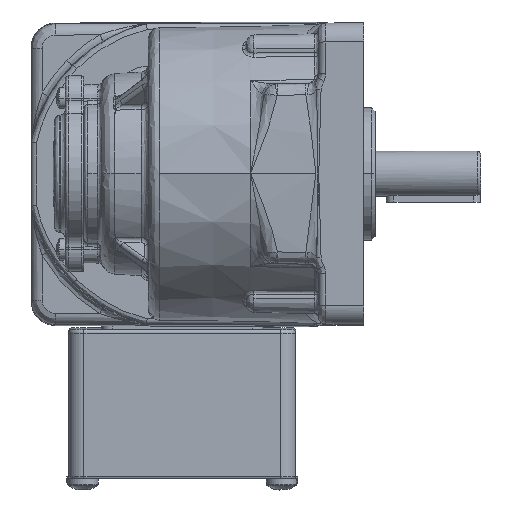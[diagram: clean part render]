
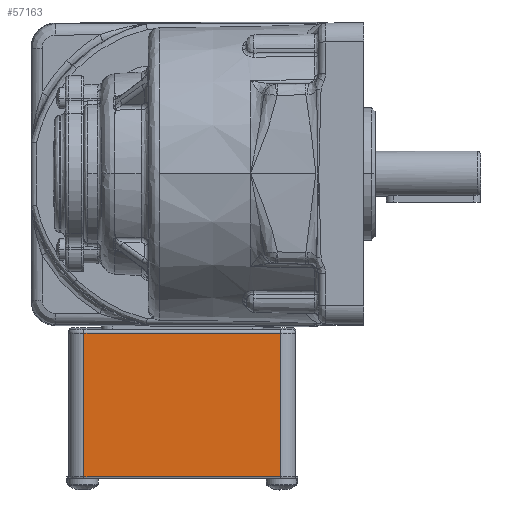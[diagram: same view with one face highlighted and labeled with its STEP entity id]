
A CAD part, top view. The second image highlights one B-rep face of the part: STEP entity #57163.
In plain terms, the highlighted planar face has unit normal (0, -0.008, 1) as drawn and (0, -1, 0.008) by its records, which use the part's own axes.
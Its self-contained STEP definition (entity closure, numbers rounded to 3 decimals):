
#659 = AXIS2_PLACEMENT_3D ( 'NONE', #3246, #1456, #1428 ) ;
#1428 = DIRECTION ( 'NONE',  ( 0., -0.008, -1. ) ) ;
#1456 = DIRECTION ( 'NONE',  ( 0., -1., 0.008 ) ) ;
#1555 = PLANE ( 'NONE',  #659 ) ;
#3246 = CARTESIAN_POINT ( 'NONE',  ( 0., -5.634, 40.993 ) ) ;
#7603 = VERTEX_POINT ( 'NONE', #70195 ) ;
#8669 = EDGE_CURVE ( 'NONE', #7603, #70804, #89637, .T. ) ;
#8973 = VECTOR ( 'NONE', #26447, 1000. ) ;
#9573 = EDGE_CURVE ( 'NONE', #85152, #70804, #89799, .T. ) ;
#9990 = EDGE_CURVE ( 'NONE', #85152, #70986, #90688, .T. ) ;
#11534 = CARTESIAN_POINT ( 'NONE',  ( -26., -5.634, 40.993 ) ) ;
#11636 = DIRECTION ( 'NONE',  ( 0., 0.008, 1. ) ) ;
#13228 = CARTESIAN_POINT ( 'NONE',  ( 26., -5.314, 79.992 ) ) ;
#24251 = EDGE_CURVE ( 'NONE', #70986, #7603, #67589, .T. ) ;
#26447 = DIRECTION ( 'NONE',  ( 0., -0.008, -1. ) ) ;
#26855 = CARTESIAN_POINT ( 'NONE',  ( 26., -5.634, 40.993 ) ) ;
#28284 = ORIENTED_EDGE ( 'NONE', *, *, #9990, .F. ) ;
#43002 = DIRECTION ( 'NONE',  ( -1., 0., 0. ) ) ;
#43142 = VECTOR ( 'NONE', #11636, 1000. ) ;
#43541 = CARTESIAN_POINT ( 'NONE',  ( 0., -5.314, 79.992 ) ) ;
#44079 = CARTESIAN_POINT ( 'NONE',  ( 26., -5.626, 41.993 ) ) ;
#48351 = ORIENTED_EDGE ( 'NONE', *, *, #8669, .F. ) ;
#52054 = CARTESIAN_POINT ( 'NONE',  ( -26., -5.314, 79.992 ) ) ;
#52848 = VECTOR ( 'NONE', #43002, 1000. ) ;
#57163 = ADVANCED_FACE ( 'NONE', ( #84927 ), #1555, .T. ) ;
#64703 = ORIENTED_EDGE ( 'NONE', *, *, #24251, .F. ) ;
#67589 = LINE ( 'NONE', #92144, #80437 ) ;
#70195 = CARTESIAN_POINT ( 'NONE',  ( -26., -5.626, 41.993 ) ) ;
#70804 = VERTEX_POINT ( 'NONE', #52054 ) ;
#70874 = EDGE_LOOP ( 'NONE', ( #48351, #64703, #28284, #73675 ) ) ;
#70986 = VERTEX_POINT ( 'NONE', #44079 ) ;
#73675 = ORIENTED_EDGE ( 'NONE', *, *, #9573, .T. ) ;
#80437 = VECTOR ( 'NONE', #92020, 1000. ) ;
#84927 = FACE_OUTER_BOUND ( 'NONE', #70874, .T. ) ;
#85152 = VERTEX_POINT ( 'NONE', #13228 ) ;
#89637 = LINE ( 'NONE', #11534, #43142 ) ;
#89799 = LINE ( 'NONE', #43541, #52848 ) ;
#90688 = LINE ( 'NONE', #26855, #8973 ) ;
#92020 = DIRECTION ( 'NONE',  ( -1., 0., 0. ) ) ;
#92144 = CARTESIAN_POINT ( 'NONE',  ( 26.431, -5.626, 41.993 ) ) ;
